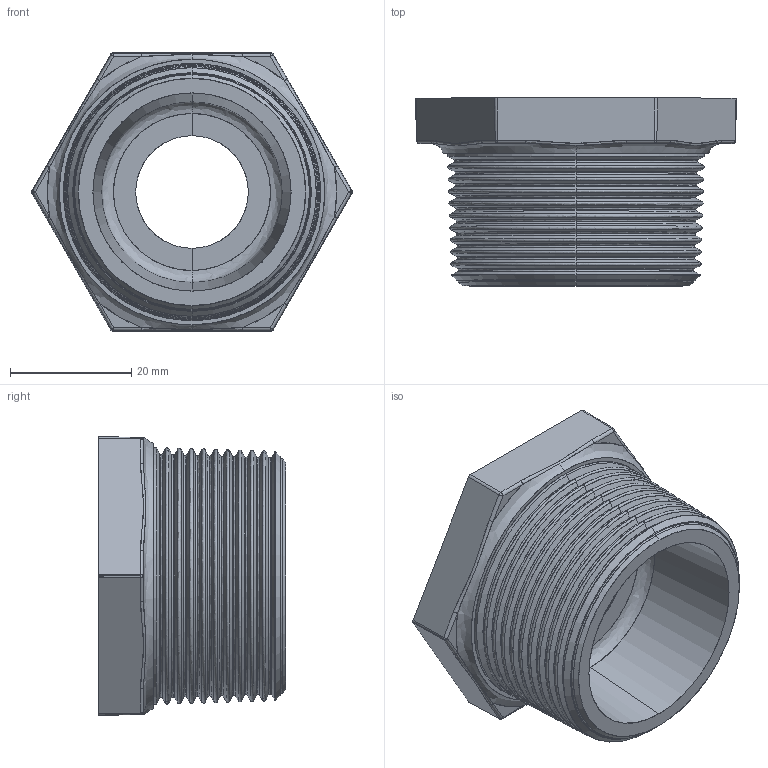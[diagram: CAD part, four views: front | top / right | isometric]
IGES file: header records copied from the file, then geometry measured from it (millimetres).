
Start section: SolidWorks IGES file using analytic representation for surfaces
Global section: file name: C:\Users\Joel Rosa\Desktop\Tubulação\12-01-OK\12-01-035.IGS; native system: SolidWorks 2011; preprocessor: SolidWorks 2011; author: Joel Rosa; date: 121203.200136; units: millimetre
Bounding box: 52.96 x 31 x 46 mm (x, y, z)
Surface area: 11608.8 mm2 (no closed solid volume)
Topology: 0 solids, 0 shells, 358 faces, 2719 edges, 2719 vertices
Faces by surface type: bspline 257, revolution 101
